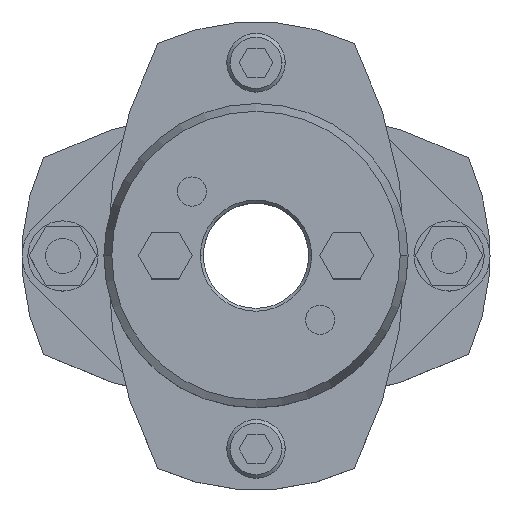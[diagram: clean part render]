
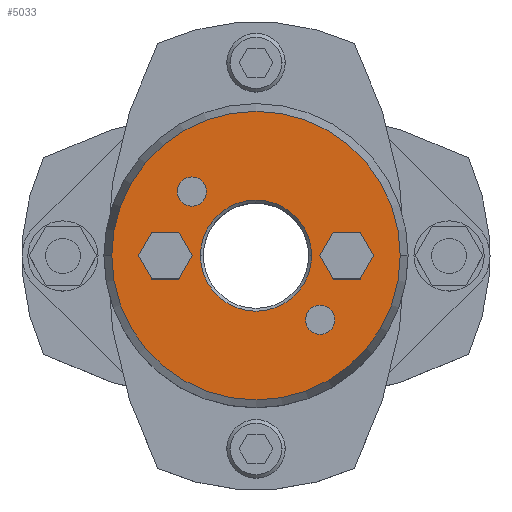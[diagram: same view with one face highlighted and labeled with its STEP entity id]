
A CAD part, top view. The second image highlights one B-rep face of the part: STEP entity #5033.
In plain terms, the highlighted planar face has unit normal (0, 0, 1).
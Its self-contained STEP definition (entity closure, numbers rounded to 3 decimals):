
#857=CARTESIAN_POINT('',(-9.5,0.,35.875));
#858=VERTEX_POINT('',#857);
#874=CARTESIAN_POINT('',(9.5,0.,35.875));
#875=VERTEX_POINT('',#874);
#882=CARTESIAN_POINT('',(0.,0.,35.875));
#883=DIRECTION('',(0.0,0.0,1.0));
#884=DIRECTION('',(-1.0,0.0,0.0));
#885=AXIS2_PLACEMENT_3D('',#882,#883,#884);
#886=CIRCLE('',#885,9.5);
#887=EDGE_CURVE('',#875,#858,#886,.T.);
#1045=CARTESIAN_POINT('',(24.66,0.,35.875));
#1046=VERTEX_POINT('',#1045);
#1053=CARTESIAN_POINT('',(-24.66,0.,35.875));
#1054=VERTEX_POINT('',#1053);
#1055=CARTESIAN_POINT('',(0.,0.,35.875));
#1056=DIRECTION('',(0.0,0.0,-1.0));
#1057=DIRECTION('',(1.0,0.0,0.0));
#1058=AXIS2_PLACEMENT_3D('',#1055,#1056,#1057);
#1059=CIRCLE('',#1058,24.66);
#1060=EDGE_CURVE('',#1046,#1054,#1059,.T.);
#1155=CARTESIAN_POINT('',(-13.46,10.96,35.875));
#1156=VERTEX_POINT('',#1155);
#1172=CARTESIAN_POINT('',(-8.46,10.96,35.875));
#1173=VERTEX_POINT('',#1172);
#1180=CARTESIAN_POINT('',(-10.96,10.96,35.875));
#1181=DIRECTION('',(0.0,0.0,-1.0));
#1182=DIRECTION('',(-1.0,0.0,0.0));
#1183=AXIS2_PLACEMENT_3D('',#1180,#1181,#1182);
#1184=CIRCLE('',#1183,2.5);
#1185=EDGE_CURVE('',#1156,#1173,#1184,.T.);
#1197=CARTESIAN_POINT('',(8.46,-10.96,35.875));
#1198=VERTEX_POINT('',#1197);
#1214=CARTESIAN_POINT('',(13.46,-10.96,35.875));
#1215=VERTEX_POINT('',#1214);
#1222=CARTESIAN_POINT('',(10.96,-10.96,35.875));
#1223=DIRECTION('',(0.0,0.0,-1.0));
#1224=DIRECTION('',(-1.0,0.0,0.0));
#1225=AXIS2_PLACEMENT_3D('',#1222,#1223,#1224);
#1226=CIRCLE('',#1225,2.5);
#1227=EDGE_CURVE('',#1198,#1215,#1226,.T.);
#4277=CARTESIAN_POINT('',(10.881,0.,35.875));
#4278=VERTEX_POINT('',#4277);
#4285=CARTESIAN_POINT('',(13.191,-4.,35.875));
#4286=VERTEX_POINT('',#4285);
#4287=CARTESIAN_POINT('',(13.191,-4.,35.875));
#4288=DIRECTION('',(-0.5,0.866,0.0));
#4289=VECTOR('',#4288,4.619);
#4290=LINE('',#4287,#4289);
#4291=EDGE_CURVE('',#4286,#4278,#4290,.T.);
#4315=CARTESIAN_POINT('',(13.191,4.,35.875));
#4316=VERTEX_POINT('',#4315);
#4323=CARTESIAN_POINT('',(10.881,0.,35.875));
#4324=DIRECTION('',(0.5,0.866,0.0));
#4325=VECTOR('',#4324,4.619);
#4326=LINE('',#4323,#4325);
#4327=EDGE_CURVE('',#4278,#4316,#4326,.T.);
#4346=CARTESIAN_POINT('',(17.809,4.,35.875));
#4347=VERTEX_POINT('',#4346);
#4354=CARTESIAN_POINT('',(13.191,4.,35.875));
#4355=DIRECTION('',(1.0,0.0,0.0));
#4356=VECTOR('',#4355,4.619);
#4357=LINE('',#4354,#4356);
#4358=EDGE_CURVE('',#4316,#4347,#4357,.T.);
#4377=CARTESIAN_POINT('',(20.119,0.,35.875));
#4378=VERTEX_POINT('',#4377);
#4385=CARTESIAN_POINT('',(17.809,4.,35.875));
#4386=DIRECTION('',(0.5,-0.866,0.0));
#4387=VECTOR('',#4386,4.619);
#4388=LINE('',#4385,#4387);
#4389=EDGE_CURVE('',#4347,#4378,#4388,.T.);
#4408=CARTESIAN_POINT('',(17.809,-4.,35.875));
#4409=VERTEX_POINT('',#4408);
#4416=CARTESIAN_POINT('',(20.119,0.,35.875));
#4417=DIRECTION('',(-0.5,-0.866,0.0));
#4418=VECTOR('',#4417,4.619);
#4419=LINE('',#4416,#4418);
#4420=EDGE_CURVE('',#4378,#4409,#4419,.T.);
#4438=CARTESIAN_POINT('',(17.809,-4.,35.875));
#4439=DIRECTION('',(-1.0,0.0,0.0));
#4440=VECTOR('',#4439,4.619);
#4441=LINE('',#4438,#4440);
#4442=EDGE_CURVE('',#4409,#4286,#4441,.T.);
#4477=CARTESIAN_POINT('',(-20.119,0.,35.875));
#4478=VERTEX_POINT('',#4477);
#4485=CARTESIAN_POINT('',(-17.809,-4.,35.875));
#4486=VERTEX_POINT('',#4485);
#4487=CARTESIAN_POINT('',(-17.809,-4.,35.875));
#4488=DIRECTION('',(-0.5,0.866,0.0));
#4489=VECTOR('',#4488,4.619);
#4490=LINE('',#4487,#4489);
#4491=EDGE_CURVE('',#4486,#4478,#4490,.T.);
#4515=CARTESIAN_POINT('',(-17.809,4.,35.875));
#4516=VERTEX_POINT('',#4515);
#4523=CARTESIAN_POINT('',(-20.119,0.,35.875));
#4524=DIRECTION('',(0.5,0.866,0.0));
#4525=VECTOR('',#4524,4.619);
#4526=LINE('',#4523,#4525);
#4527=EDGE_CURVE('',#4478,#4516,#4526,.T.);
#4546=CARTESIAN_POINT('',(-13.191,4.,35.875));
#4547=VERTEX_POINT('',#4546);
#4554=CARTESIAN_POINT('',(-17.809,4.,35.875));
#4555=DIRECTION('',(1.0,0.0,0.0));
#4556=VECTOR('',#4555,4.619);
#4557=LINE('',#4554,#4556);
#4558=EDGE_CURVE('',#4516,#4547,#4557,.T.);
#4577=CARTESIAN_POINT('',(-10.881,0.,35.875));
#4578=VERTEX_POINT('',#4577);
#4585=CARTESIAN_POINT('',(-13.191,4.,35.875));
#4586=DIRECTION('',(0.5,-0.866,0.0));
#4587=VECTOR('',#4586,4.619);
#4588=LINE('',#4585,#4587);
#4589=EDGE_CURVE('',#4547,#4578,#4588,.T.);
#4608=CARTESIAN_POINT('',(-13.191,-4.,35.875));
#4609=VERTEX_POINT('',#4608);
#4616=CARTESIAN_POINT('',(-10.881,0.,35.875));
#4617=DIRECTION('',(-0.5,-0.866,0.0));
#4618=VECTOR('',#4617,4.619);
#4619=LINE('',#4616,#4618);
#4620=EDGE_CURVE('',#4578,#4609,#4619,.T.);
#4638=CARTESIAN_POINT('',(-13.191,-4.,35.875));
#4639=DIRECTION('',(-1.0,0.0,0.0));
#4640=VECTOR('',#4639,4.619);
#4641=LINE('',#4638,#4640);
#4642=EDGE_CURVE('',#4609,#4486,#4641,.T.);
#4668=CARTESIAN_POINT('',(10.96,-10.96,35.875));
#4669=DIRECTION('',(0.0,0.0,-1.0));
#4670=DIRECTION('',(-1.0,0.0,0.0));
#4671=AXIS2_PLACEMENT_3D('',#4668,#4669,#4670);
#4672=CIRCLE('',#4671,2.5);
#4673=EDGE_CURVE('',#1215,#1198,#4672,.T.);
#4702=CARTESIAN_POINT('',(-10.96,10.96,35.875));
#4703=DIRECTION('',(0.0,0.0,-1.0));
#4704=DIRECTION('',(-1.0,0.0,0.0));
#4705=AXIS2_PLACEMENT_3D('',#4702,#4703,#4704);
#4706=CIRCLE('',#4705,2.5);
#4707=EDGE_CURVE('',#1173,#1156,#4706,.T.);
#4980=CARTESIAN_POINT('',(0.,0.,35.875));
#4981=DIRECTION('',(0.0,0.0,-1.0));
#4982=DIRECTION('',(1.0,0.0,0.0));
#4983=AXIS2_PLACEMENT_3D('',#4980,#4981,#4982);
#4984=CIRCLE('',#4983,24.66);
#4985=EDGE_CURVE('',#1054,#1046,#4984,.T.);
#4990=CARTESIAN_POINT('',(-2.364,0.,35.875));
#4991=DIRECTION('',(0.0,0.0,1.0));
#4992=DIRECTION('',(-1.0,0.0,0.0));
#4993=AXIS2_PLACEMENT_3D('',#4990,#4991,#4992);
#4994=PLANE('',#4993);
#4995=ORIENTED_EDGE('',*,*,#4985,.F.);
#4996=ORIENTED_EDGE('',*,*,#1060,.F.);
#4997=EDGE_LOOP('',(#4995,#4996));
#4998=FACE_OUTER_BOUND('',#4997,.T.);
#4999=ORIENTED_EDGE('',*,*,#4291,.T.);
#5000=ORIENTED_EDGE('',*,*,#4327,.T.);
#5001=ORIENTED_EDGE('',*,*,#4358,.T.);
#5002=ORIENTED_EDGE('',*,*,#4389,.T.);
#5003=ORIENTED_EDGE('',*,*,#4420,.T.);
#5004=ORIENTED_EDGE('',*,*,#4442,.T.);
#5005=EDGE_LOOP('',(#4999,#5000,#5001,#5002,#5003,#5004));
#5006=FACE_BOUND('',#5005,.T.);
#5007=ORIENTED_EDGE('',*,*,#4491,.T.);
#5008=ORIENTED_EDGE('',*,*,#4527,.T.);
#5009=ORIENTED_EDGE('',*,*,#4558,.T.);
#5010=ORIENTED_EDGE('',*,*,#4589,.T.);
#5011=ORIENTED_EDGE('',*,*,#4620,.T.);
#5012=ORIENTED_EDGE('',*,*,#4642,.T.);
#5013=EDGE_LOOP('',(#5007,#5008,#5009,#5010,#5011,#5012));
#5014=FACE_BOUND('',#5013,.T.);
#5015=ORIENTED_EDGE('',*,*,#1227,.T.);
#5016=ORIENTED_EDGE('',*,*,#4673,.T.);
#5017=EDGE_LOOP('',(#5015,#5016));
#5018=FACE_BOUND('',#5017,.T.);
#5019=ORIENTED_EDGE('',*,*,#1185,.T.);
#5020=ORIENTED_EDGE('',*,*,#4707,.T.);
#5021=EDGE_LOOP('',(#5019,#5020));
#5022=FACE_BOUND('',#5021,.T.);
#5023=ORIENTED_EDGE('',*,*,#887,.F.);
#5024=CARTESIAN_POINT('',(0.,0.,35.875));
#5025=DIRECTION('',(0.0,0.0,1.0));
#5026=DIRECTION('',(-1.0,0.0,0.0));
#5027=AXIS2_PLACEMENT_3D('',#5024,#5025,#5026);
#5028=CIRCLE('',#5027,9.5);
#5029=EDGE_CURVE('',#858,#875,#5028,.T.);
#5030=ORIENTED_EDGE('',*,*,#5029,.F.);
#5031=EDGE_LOOP('',(#5023,#5030));
#5032=FACE_BOUND('',#5031,.T.);
#5033=ADVANCED_FACE('',(#4998,#5006,#5014,#5018,#5022,#5032),#4994,.T.);
